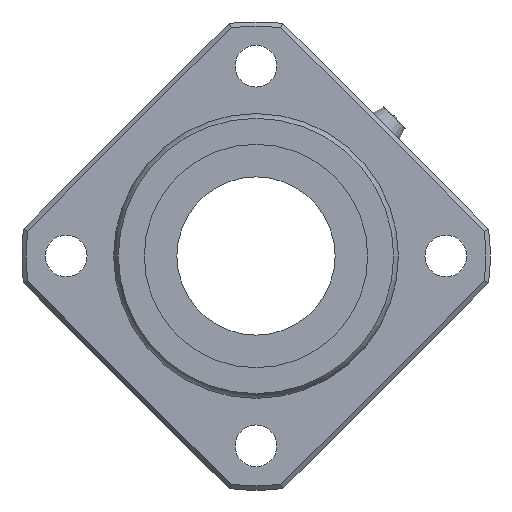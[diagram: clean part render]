
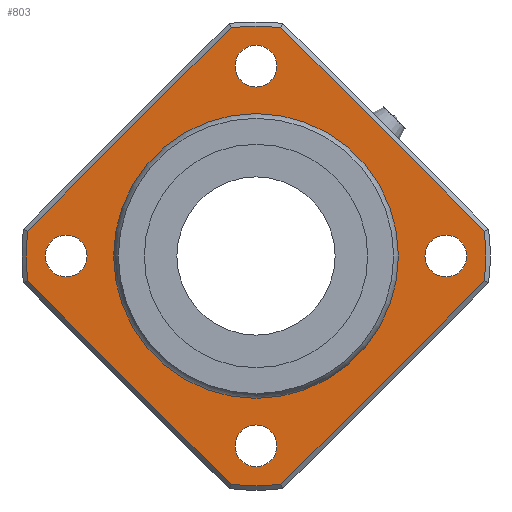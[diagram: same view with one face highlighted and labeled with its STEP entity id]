
A CAD part, left-side view. The second image highlights one B-rep face of the part: STEP entity #803.
In plain terms, the highlighted planar face has unit normal (-1, 0, 0).
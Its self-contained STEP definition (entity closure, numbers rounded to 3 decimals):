
#490=CARTESIAN_POINT('',(55.0,-3.936,-36.086));
#491=VERTEX_POINT('',#490);
#499=CARTESIAN_POINT('',(55.0,3.936,-36.086));
#500=VERTEX_POINT('',#499);
#501=CARTESIAN_POINT('',(55.0,0.0,0.0));
#502=DIRECTION('',(1.0,0.0,0.0));
#503=DIRECTION('',(0.0,0.0,-1.0));
#504=AXIS2_PLACEMENT_3D('',#501,#502,#503);
#505=CIRCLE('',#504,36.3);
#506=EDGE_CURVE('',#491,#500,#505,.T.);
#525=CARTESIAN_POINT('',(55.0,36.086,-3.936));
#526=VERTEX_POINT('',#525);
#527=CARTESIAN_POINT('',(55.0,3.936,-36.086));
#528=DIRECTION('',(0.0,0.707,0.707));
#529=VECTOR('',#528,45.466);
#530=LINE('',#527,#529);
#531=EDGE_CURVE('',#500,#526,#530,.T.);
#558=CARTESIAN_POINT('',(55.0,36.086,3.936));
#559=VERTEX_POINT('',#558);
#560=CARTESIAN_POINT('',(55.0,0.0,0.0));
#561=DIRECTION('',(1.0,0.0,0.0));
#562=DIRECTION('',(0.0,0.0,1.0));
#563=AXIS2_PLACEMENT_3D('',#560,#561,#562);
#564=CIRCLE('',#563,36.3);
#565=EDGE_CURVE('',#526,#559,#564,.T.);
#591=CARTESIAN_POINT('',(55.0,3.936,36.086));
#592=VERTEX_POINT('',#591);
#593=CARTESIAN_POINT('',(55.0,36.086,3.936));
#594=DIRECTION('',(0.0,-0.707,0.707));
#595=VECTOR('',#594,45.466);
#596=LINE('',#593,#595);
#597=EDGE_CURVE('',#559,#592,#596,.T.);
#624=CARTESIAN_POINT('',(55.0,-3.936,36.086));
#625=VERTEX_POINT('',#624);
#626=CARTESIAN_POINT('',(55.0,0.0,0.0));
#627=DIRECTION('',(1.0,0.0,0.0));
#628=DIRECTION('',(0.0,0.0,1.0));
#629=AXIS2_PLACEMENT_3D('',#626,#627,#628);
#630=CIRCLE('',#629,36.3);
#631=EDGE_CURVE('',#592,#625,#630,.T.);
#655=CARTESIAN_POINT('',(55.0,-36.086,3.936));
#656=VERTEX_POINT('',#655);
#657=CARTESIAN_POINT('',(55.0,-3.936,36.086));
#658=DIRECTION('',(0.0,-0.707,-0.707));
#659=VECTOR('',#658,45.466);
#660=LINE('',#657,#659);
#661=EDGE_CURVE('',#625,#656,#660,.T.);
#680=CARTESIAN_POINT('',(55.0,-36.086,-3.936));
#681=VERTEX_POINT('',#680);
#682=CARTESIAN_POINT('',(55.0,0.0,0.0));
#683=DIRECTION('',(1.0,0.0,0.0));
#684=DIRECTION('',(0.0,0.0,1.0));
#685=AXIS2_PLACEMENT_3D('',#682,#683,#684);
#686=CIRCLE('',#685,36.3);
#687=EDGE_CURVE('',#656,#681,#686,.T.);
#706=CARTESIAN_POINT('',(55.0,-36.086,-3.936));
#707=DIRECTION('',(0.0,0.707,-0.707));
#708=VECTOR('',#707,45.466);
#709=LINE('',#706,#708);
#710=EDGE_CURVE('',#681,#491,#709,.T.);
#733=CARTESIAN_POINT('',(55.0,0.0,29.563));
#734=DIRECTION('',(-1.0,0.0,0.0));
#735=DIRECTION('',(0.0,0.0,1.0));
#736=AXIS2_PLACEMENT_3D('',#733,#734,#735);
#737=PLANE('',#736);
#738=ORIENTED_EDGE('',*,*,#506,.F.);
#739=ORIENTED_EDGE('',*,*,#710,.F.);
#740=ORIENTED_EDGE('',*,*,#687,.F.);
#741=ORIENTED_EDGE('',*,*,#661,.F.);
#742=ORIENTED_EDGE('',*,*,#631,.F.);
#743=ORIENTED_EDGE('',*,*,#597,.F.);
#744=ORIENTED_EDGE('',*,*,#565,.F.);
#745=ORIENTED_EDGE('',*,*,#531,.F.);
#746=EDGE_LOOP('',(#738,#739,#740,#741,#742,#743,#744,#745));
#747=FACE_OUTER_BOUND('',#746,.T.);
#748=CARTESIAN_POINT('',(55.0,0.0,22.127));
#749=VERTEX_POINT('',#748);
#750=CARTESIAN_POINT('',(55.0,0.0,0.0));
#751=DIRECTION('',(-1.0,0.0,0.0));
#752=DIRECTION('',(0.0,0.0,1.0));
#753=AXIS2_PLACEMENT_3D('',#750,#751,#752);
#754=CIRCLE('',#753,22.127);
#755=EDGE_CURVE('',#749,#749,#754,.T.);
#756=ORIENTED_EDGE('',*,*,#755,.F.);
#757=EDGE_LOOP('',(#756));
#758=FACE_BOUND('',#757,.T.);
#759=CARTESIAN_POINT('',(55.0,26.7,0.));
#760=VERTEX_POINT('',#759);
#761=CARTESIAN_POINT('',(55.0,30.0,0.));
#762=DIRECTION('',(1.0,0.0,0.0));
#763=DIRECTION('',(0.0,1.0,0.0));
#764=AXIS2_PLACEMENT_3D('',#761,#762,#763);
#765=CIRCLE('',#764,3.3);
#766=EDGE_CURVE('',#760,#760,#765,.T.);
#767=ORIENTED_EDGE('',*,*,#766,.T.);
#768=EDGE_LOOP('',(#767));
#769=FACE_BOUND('',#768,.T.);
#770=CARTESIAN_POINT('',(55.0,-33.3,0.));
#771=VERTEX_POINT('',#770);
#772=CARTESIAN_POINT('',(55.0,-30.0,0.));
#773=DIRECTION('',(1.0,0.0,0.0));
#774=DIRECTION('',(0.0,1.0,0.0));
#775=AXIS2_PLACEMENT_3D('',#772,#773,#774);
#776=CIRCLE('',#775,3.3);
#777=EDGE_CURVE('',#771,#771,#776,.T.);
#778=ORIENTED_EDGE('',*,*,#777,.T.);
#779=EDGE_LOOP('',(#778));
#780=FACE_BOUND('',#779,.T.);
#781=CARTESIAN_POINT('',(55.0,-3.3,30.0));
#782=VERTEX_POINT('',#781);
#783=CARTESIAN_POINT('',(55.0,0.,30.0));
#784=DIRECTION('',(1.0,0.0,0.0));
#785=DIRECTION('',(0.0,1.0,0.0));
#786=AXIS2_PLACEMENT_3D('',#783,#784,#785);
#787=CIRCLE('',#786,3.3);
#788=EDGE_CURVE('',#782,#782,#787,.T.);
#789=ORIENTED_EDGE('',*,*,#788,.T.);
#790=EDGE_LOOP('',(#789));
#791=FACE_BOUND('',#790,.T.);
#792=CARTESIAN_POINT('',(55.0,-3.3,-30.0));
#793=VERTEX_POINT('',#792);
#794=CARTESIAN_POINT('',(55.0,0.,-30.0));
#795=DIRECTION('',(1.0,0.0,0.0));
#796=DIRECTION('',(0.0,1.0,0.0));
#797=AXIS2_PLACEMENT_3D('',#794,#795,#796);
#798=CIRCLE('',#797,3.3);
#799=EDGE_CURVE('',#793,#793,#798,.T.);
#800=ORIENTED_EDGE('',*,*,#799,.T.);
#801=EDGE_LOOP('',(#800));
#802=FACE_BOUND('',#801,.T.);
#803=ADVANCED_FACE('',(#747,#758,#769,#780,#791,#802),#737,.T.);
